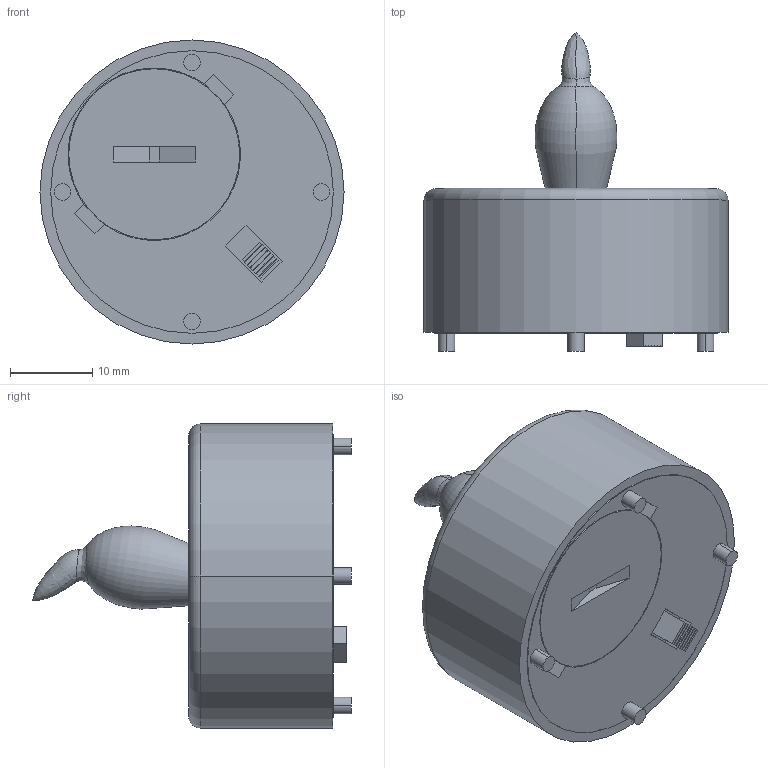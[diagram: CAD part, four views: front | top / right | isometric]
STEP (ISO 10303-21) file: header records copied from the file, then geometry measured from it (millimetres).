
FILE_DESCRIPTION((''),'2;1');
FILE_NAME('PRT0002','2024-06-27T10:51:12',('qinghui.yi'),(''),'CREO PARAMETRIC BY PTC INC, 2019164','CREO PARAMETRIC BY PTC INC, 2019164','');
FILE_SCHEMA(('CONFIG_CONTROL_DESIGN','SHAPE_APPEARANCE_LAYERS_GROUPS'));
Length unit declared in the file: millimetre
Products named in the file (1): PRT0002
Bounding box: 37 x 38.8 x 37 mm (x, y, z)
Volume: 19546.1 mm3; surface area: 5011.2 mm2
Topology: 1 solids, 1 shells, 77 faces, 201 edges, 147 vertices
Faces by surface type: plane 53, cylinder 16, revolution 4, torus 2, bspline 2
Entity records: 3045 total; most frequent: CARTESIAN_POINT 739, DIRECTION 374, ORIENTED_EDGE 372, COLOUR_RGB 312, EDGE_CURVE 186, VECTOR 150, LINE 150, VERTEX_POINT 121
